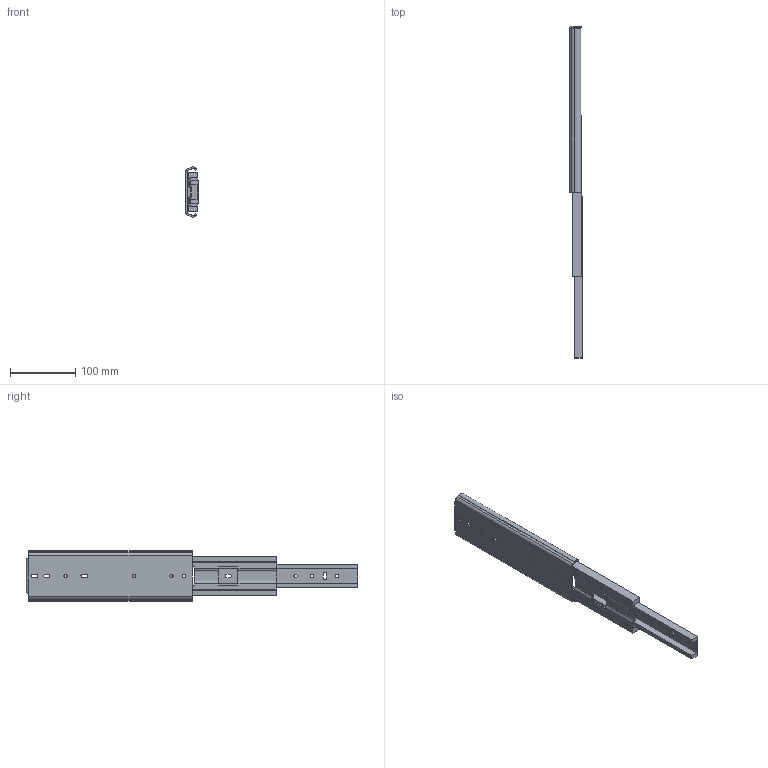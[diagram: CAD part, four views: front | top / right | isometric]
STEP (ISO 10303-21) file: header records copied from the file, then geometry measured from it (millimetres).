
FILE_DESCRIPTION(/* description */ ('Unknown'),/* implementation_level */ '2;1');
FILE_NAME(/* name */ '76J01-10 open',/* time_stamp */ '2024-07-26T14:43:42+08:00',/* author */ ('Unknown'),/* organization */ ('Unknown'),/* preprocessor_version */ 'ST-DEVELOPER v18.104',/* originating_system */ 'Solid Edge',/* authorisation */ 'Unknown');
FILE_SCHEMA (('AUTOMOTIVE_DESIGN {1 0 10303 214 3 1 1}'));
Length unit declared in the file: millimetre
Products named in the file (4): 76J01-10 open; 76J01 10 inch 內_0; 76J01 10 吋中_; 76J01 10 嬪
Assembly tree (3 placements, depth 2):
  76J01-10 open
    76J01 10 inch 內_0
    76J01 10 吋中_
    76J01 10 嬪
Bounding box: 19.3 x 507.3 x 76.76 mm (x, y, z)
Volume: 194653.2 mm3; surface area: 122859 mm2
Topology: 3 solids, 3 shells, 163 faces, 490 edges, 329 vertices
Faces by surface type: plane 94, cylinder 69
Full cylindrical faces by diameter (mm): 5.2 x7
Entity records: 5975 total; most frequent: CARTESIAN_POINT 965, ORIENTED_EDGE 952, DIRECTION 952, EDGE_CURVE 476, LINE 334, VECTOR 334, VERTEX_POINT 322, AXIS2_PLACEMENT_3D 309
